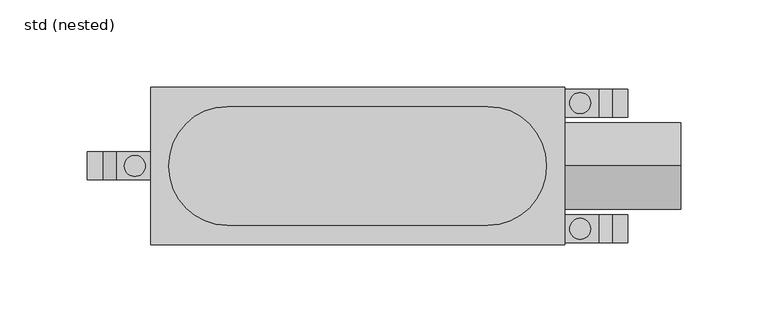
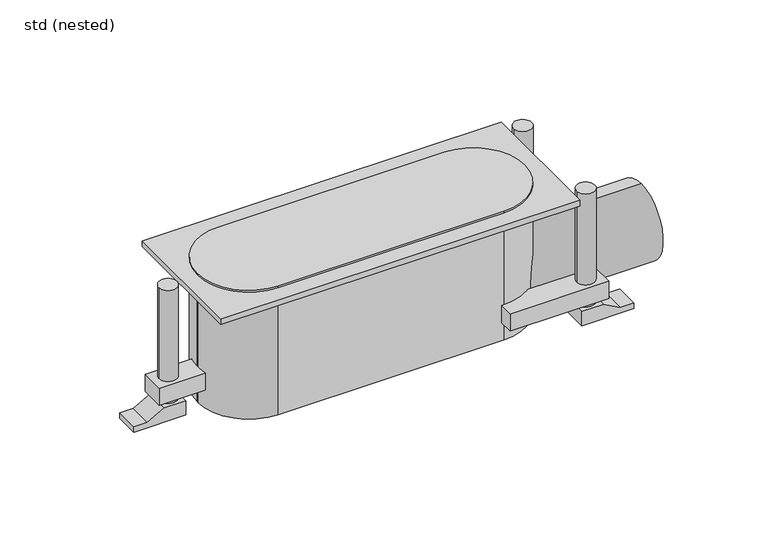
"""IFC4 building model written with IfcOpenShell, lengths in millimetres: sanitary terminal geometry, ZZZ_do not use_PF_WPB_floor drain ShowerDrain S+_ACO : std (nested)."""

from ifc_helpers import new_model, si_unit, point, frame, frame_2d, origin, place, context, project, spatial, polyline, circle_curve, trimmed, segment, composite_curve, outline, extrude, source, transform, mapped, element, save
from ifc_brep_helpers import plane_surface, cylinder_surface, advanced_brep


def std_nested_d991f233(model_context):
    return source(origin(), model_context, "Body", "SolidModel", [
        extrude(outline(composite_curve([segment(trimmed(circle_curve(frame_2d((-74.5, 0.5)), 33.5), [point((-108.0, 0.5))], [point((-74.5, 34.0))], False, "CARTESIAN"), True, "CONTINUOUS"), segment(polyline([(-74.5, 34.0), (74.5, 34.0)]), True, "CONTINUOUS"), segment(trimmed(circle_curve(frame_2d((74.5, 0.5)), 33.5), [point((74.5, 34.0))], [point((108.0, 0.5))], False, "CARTESIAN"), True, "CONTINUOUS"), segment(polyline([(108.0, 0.5), (108.0, -0.5)]), True, "CONTINUOUS"), segment(trimmed(circle_curve(frame_2d((74.5, -0.5)), 33.5), [point((108.0, -0.5))], [point((74.5, -34.0))], False, "CARTESIAN"), True, "CONTINUOUS"), segment(polyline([(74.5, -34.0), (-74.5, -34.0)]), True, "CONTINUOUS"), segment(trimmed(circle_curve(frame_2d((-74.5, -0.5)), 33.5), [point((-74.5, -34.0))], [point((-108.0, -0.5))], False, "CARTESIAN"), True, "CONTINUOUS"), segment(polyline([(-108.0, -0.5), (-108.0, 0.5)]), True, "CONTINUOUS")], self_intersect=False)), frame((0.0, 0.0, -90.0111617), z_axis=(0.0, 0.0, 1.0), x_axis=(1.0, 0.0, 0.0)), (0.0, 0.0, 1.0), 90.0),
        extrude(outline(composite_curve([segment(trimmed(circle_curve(frame_2d((0.0, -65.0111617)), 25.0), [point((0.0, -90.0111617))], [point((0.0, -40.0111617))], False, "CARTESIAN"), True, "CONTINUOUS"), segment(trimmed(circle_curve(frame_2d((0.0, -65.0111617)), 25.0), [point((0.0, -40.0111617))], [point((0.0, -90.0111617))], False, "CARTESIAN"), True, "CONTINUOUS")], self_intersect=False)), frame((0.0, 0.0, 0.0), z_axis=(1.0, 0.0, 0.0), x_axis=(0.0, 1.0, 0.0)), (0.0, 0.0, 1.0), 185.0),
        extrude(outline(polyline([(118.5, 45.0), (118.5, -45.0), (-118.5, -45.0), (-118.5, 45.0), (118.5, 45.0)]), holes=[composite_curve([segment(polyline([(-108.0, 0.5), (-108.0, -0.5)]), True, "CONTINUOUS"), segment(trimmed(circle_curve(frame_2d((-74.5, -0.5)), 33.5), [point((-108.0, -0.5))], [point((-74.5, -34.0))], True, "CARTESIAN"), True, "CONTINUOUS"), segment(polyline([(-74.5, -34.0), (74.5, -34.0)]), True, "CONTINUOUS"), segment(trimmed(circle_curve(frame_2d((74.5, -0.5)), 33.5), [point((74.5, -34.0))], [point((108.0, -0.5))], True, "CARTESIAN"), True, "CONTINUOUS"), segment(polyline([(108.0, -0.5), (108.0, 0.5)]), True, "CONTINUOUS"), segment(trimmed(circle_curve(frame_2d((74.5, 0.5)), 33.5), [point((108.0, 0.5))], [point((74.5, 34.0))], True, "CARTESIAN"), True, "CONTINUOUS"), segment(polyline([(74.5, 34.0), (-74.5, 34.0)]), True, "CONTINUOUS"), segment(trimmed(circle_curve(frame_2d((-74.5, 0.5)), 33.5), [point((-74.5, 34.0))], [point((-108.0, 0.5))], True, "CARTESIAN"), True, "CONTINUOUS")], self_intersect=False)]), frame((0.0, 0.0, -5.0111617), z_axis=(0.0, 0.0, 1.0), x_axis=(1.0, 0.0, 0.0)), (0.0, 0.0, 1.0), 4.0),
        extrude(outline(composite_curve([segment(polyline([(138.0, 44.0), (138.0, 28.0), (93.6311265, 28.0)]), True, "CONTINUOUS"), segment(trimmed(circle_curve(frame_2d((74.5, 0.5)), 33.5), [point((93.6311265, 28.0))], [point((74.5, 34.0))], True, "CARTESIAN"), True, "CONTINUOUS"), segment(polyline([(74.5, 34.0), (73.0, 34.0), (73.0, 44.0), (138.0, 44.0)]), True, "CONTINUOUS")], self_intersect=False)), frame((0.0, 0.0, -77.0111617), z_axis=(0.0, 0.0, 1.0), x_axis=(1.0, 0.0, 0.0)), (0.0, 0.0, 1.0), 12.0),
        extrude(outline(composite_curve([segment(polyline([(-138.0, -8.0), (-138.0, 8.0), (-107.1496554, 8.0)]), True, "CONTINUOUS"), segment(trimmed(circle_curve(frame_2d((-74.5, 0.5)), 33.5), [point((-107.1496554, 8.0))], [point((-108.0, 0.5))], True, "CARTESIAN"), True, "CONTINUOUS"), segment(polyline([(-108.0, 0.5), (-108.0, -0.5)]), True, "CONTINUOUS"), segment(trimmed(circle_curve(frame_2d((-74.5, -0.5)), 33.5), [point((-108.0, -0.5))], [point((-107.1496554, -8.0))], True, "CARTESIAN"), True, "CONTINUOUS"), segment(polyline([(-107.1496554, -8.0), (-138.0, -8.0)]), True, "CONTINUOUS")], self_intersect=False)), frame((0.0, 0.0, -77.0111617), z_axis=(0.0, 0.0, 1.0), x_axis=(1.0, 0.0, 0.0)), (0.0, 0.0, 1.0), 12.0),
        extrude(outline(composite_curve([segment(polyline([(138.0, -44.0), (73.0, -44.0), (73.0, -34.0), (74.5, -34.0)]), True, "CONTINUOUS"), segment(trimmed(circle_curve(frame_2d((74.5, -0.5)), 33.5), [point((74.5, -34.0))], [point((93.6311265, -28.0))], True, "CARTESIAN"), True, "CONTINUOUS"), segment(polyline([(93.6311265, -28.0), (138.0, -28.0), (138.0, -44.0)]), True, "CONTINUOUS")], self_intersect=False)), frame((0.0, 0.0, -77.0111617), z_axis=(0.0, 0.0, 1.0), x_axis=(1.0, 0.0, 0.0)), (0.0, 0.0, 1.0), 12.0),
        advanced_brep(
        [(-154.7, -8.0, -90.0111617), (-120.3, -8.0, -90.0111617), (-120.3, -8.0, -80.0111617), (-134.7, -8.0, -80.0111617), (-145.7, -8.0, -86.0111617), (-154.7, -8.0, -86.0111617), (-120.3, 8.0, -90.0111617), (-154.7, 8.0, -90.0111617), (-154.7, 8.0, -86.0111617), (-145.7, 8.0, -86.0111617), (-134.7, 8.0, -80.0111617), (-120.3, 8.0, -80.0111617), (-133.5, 0.0, -80.0111617), (-121.5, 0.0, -80.0111617), (-121.5, 0.0, -1.0111617), (-133.5, 0.0, -1.0111617)],
        [
            (0, 1),
            (1, 2),
            (2, 3),
            (3, 4),
            (4, 5),
            (5, 0),
            (6, 7),
            (7, 8),
            (8, 9),
            (9, 10),
            (10, 11),
            (11, 6),
            (1, 6),
            (11, 2),
            (10, 3),
            (12, 13, circle_curve(frame((-127.5, 0.0, -80.0111617), z_axis=(0.0, 0.0, -1.0), x_axis=(-1.0, 0.0, 0.0)), 6.0)),
            (13, 12, circle_curve(frame((-127.5, 0.0, -80.0111617), z_axis=(0.0, 0.0, -1.0), x_axis=(-1.0, 0.0, 0.0)), 6.0)),
            (9, 4),
            (8, 5),
            (7, 0),
            (14, 15, circle_curve(frame((-127.5, 0.0, -1.0111617), z_axis=(0.0, 0.0, 1.0), x_axis=(-1.0, 0.0, 0.0)), 6.0)),
            (15, 14, circle_curve(frame((-127.5, 0.0, -1.0111617), z_axis=(0.0, 0.0, 1.0), x_axis=(-1.0, 0.0, 0.0)), 6.0)),
            (14, 13),
            (12, 15),
        ],
        [
            plane_surface(frame((-127.5, -8.0, -90.0111617), z_axis=(0.0, -1.0, 0.0), x_axis=(0.0, 0.0, 1.0))),
            plane_surface(frame((-127.5, 8.0, -90.0111617), z_axis=(0.0, 1.0, 0.0), x_axis=(0.0, 0.0, 1.0))),
            plane_surface(frame((-120.3, -8.0, -90.0111617), z_axis=(1.0, 0.0, 0.0), x_axis=(0.0, 1.0, 0.0))),
            plane_surface(frame((-120.3, -8.0, -80.0111617), z_axis=(0.0, 0.0, 1.0), x_axis=(0.0, 1.0, 0.0))),
            plane_surface(frame((-134.7, -8.0, -80.0111617), z_axis=(-0.4788521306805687, 0.0, 0.8778955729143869), x_axis=(0.0, 1.0, 0.0))),
            plane_surface(frame((-145.7, -8.0, -86.0111617), z_axis=(0.0, 0.0, 1.0), x_axis=(0.0, 1.0, 0.0))),
            plane_surface(frame((-154.7, -8.0, -86.0111617), z_axis=(-1.0, 0.0, 0.0), x_axis=(0.0, 1.0, 0.0))),
            plane_surface(frame((121.5, -36.0, -1.0111617), z_axis=(0.0, 0.0, 1.0), x_axis=(0.0, -1.0, 0.0))),
            cylinder_surface(frame((-127.5, 0.0, -90.0111617), z_axis=(0.0, 0.0, 1.0), x_axis=(-1.0, 0.0, 0.0)), 6.0),
            plane_surface(frame((-127.5, -8.0, -90.0111617), z_axis=(0.0, 0.0, -1.0), x_axis=(0.0, 1.0, 0.0))),
        ],
        [
            (0, [[1, 2, 3, 4, 5, 6]]),
            (1, [[7, 8, 9, 10, 11, 12]]),
            (2, [[-2, 13, -12, 14]]),
            (3, [[-3, -14, -11, 15], [16, 17]]),
            (4, [[-4, -15, -10, 18]]),
            (5, [[-5, -18, -9, 19]]),
            (6, [[-6, -19, -8, 20]]),
            (7, [[21, 22]]),
            (8, [[-21, 23, -16, 24]]),
            (8, [[-22, -24, -17, -23]]),
            (9, [[-1, -20, -7, -13]]),
        ],
    ),
        advanced_brep(
        [(133.5, -36.0, -1.0111617), (121.5, -36.0, -1.0111617), (154.7, -44.0, -90.0111617), (120.3, -44.0, -90.0111617), (120.3, -28.0, -90.0111617), (154.7, -28.0, -90.0111617), (133.5, -36.0, -80.0111617), (121.5, -36.0, -80.0111617), (154.7, -44.0, -86.0111617), (145.7, -44.0, -86.0111617), (134.7, -44.0, -80.0111617), (120.3, -44.0, -80.0111617), (120.3, -28.0, -80.0111617), (134.7, -28.0, -80.0111617), (145.7, -28.0, -86.0111617), (154.7, -28.0, -86.0111617)],
        [
            (0, 1, circle_curve(frame((127.5, -36.0, -1.0111617), z_axis=(0.0, 0.0, 1.0), x_axis=(-1.0, 0.0, 0.0)), 6.0)),
            (1, 0, circle_curve(frame((127.5, -36.0, -1.0111617), z_axis=(0.0, 0.0, 1.0), x_axis=(-1.0, 0.0, 0.0)), 6.0)),
            (2, 3),
            (3, 4),
            (4, 5),
            (5, 2),
            (0, 6),
            (6, 7, circle_curve(frame((127.5, -36.0, -80.0111617), z_axis=(0.0, 0.0, 1.0), x_axis=(-1.0, 0.0, 0.0)), 6.0)),
            (7, 1),
            (7, 6, circle_curve(frame((127.5, -36.0, -80.0111617), z_axis=(0.0, 0.0, 1.0), x_axis=(-1.0, 0.0, 0.0)), 6.0)),
            (2, 8),
            (8, 9),
            (9, 10),
            (10, 11),
            (11, 3),
            (4, 12),
            (12, 13),
            (13, 14),
            (14, 15),
            (15, 5),
            (11, 12),
            (10, 13),
            (9, 14),
            (8, 15),
        ],
        [
            plane_surface(frame((121.5, -36.0, -1.0111617), z_axis=(0.0, 0.0, 1.0), x_axis=(0.0, -1.0, 0.0))),
            plane_surface(frame((121.5, -36.0, -90.0111617), z_axis=(0.0, 0.0, -1.0), x_axis=(0.0, 1.0, 0.0))),
            cylinder_surface(frame((127.5, -36.0, -90.0111617), z_axis=(0.0, 0.0, 1.0), x_axis=(-1.0, 0.0, 0.0)), 6.0),
            plane_surface(frame((127.5, -44.0, -90.0111617), z_axis=(0.0, -1.0, 0.0), x_axis=(0.0, 0.0, 1.0))),
            plane_surface(frame((127.5, -28.0, -90.0111617), z_axis=(0.0, 1.0, 0.0), x_axis=(0.0, 0.0, 1.0))),
            plane_surface(frame((120.3, -44.0, -80.0111617), z_axis=(-1.0, 0.0, 0.0), x_axis=(0.0, 1.0, 0.0))),
            plane_surface(frame((134.7, -44.0, -80.0111617), z_axis=(0.0, 0.0, 1.0), x_axis=(0.0, 1.0, 0.0))),
            plane_surface(frame((145.7, -44.0, -86.0111617), z_axis=(0.4788521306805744, 0.0, 0.8778955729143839), x_axis=(0.0, 1.0, 0.0))),
            plane_surface(frame((154.7, -44.0, -86.0111617), z_axis=(0.0, 0.0, 1.0), x_axis=(0.0, 1.0, 0.0))),
            plane_surface(frame((154.7, -44.0, -90.0111617), z_axis=(1.0, 0.0, 0.0), x_axis=(0.0, 1.0, 0.0))),
        ],
        [
            (0, [[1, 2]]),
            (1, [[3, 4, 5, 6]]),
            (2, [[-1, 7, 8, 9]]),
            (2, [[-2, -9, 10, -7]]),
            (3, [[-3, 11, 12, 13, 14, 15]]),
            (4, [[-5, 16, 17, 18, 19, 20]]),
            (5, [[-15, 21, -16, -4]]),
            (6, [[-14, 22, -17, -21], [-8, -10]]),
            (7, [[-13, 23, -18, -22]]),
            (8, [[-12, 24, -19, -23]]),
            (9, [[-11, -6, -20, -24]]),
        ],
    ),
        advanced_brep(
        [(133.5, 36.0, -1.0111617), (121.5, 36.0, -1.0111617), (154.7, 28.0, -90.0111617), (120.3, 28.0, -90.0111617), (120.3, 44.0, -90.0111617), (154.7, 44.0, -90.0111617), (133.5, 36.0, -80.0111617), (121.5, 36.0, -80.0111617), (154.7, 28.0, -86.0111617), (145.7, 28.0, -86.0111617), (134.7, 28.0, -80.0111617), (120.3, 28.0, -80.0111617), (120.3, 44.0, -80.0111617), (134.7, 44.0, -80.0111617), (145.7, 44.0, -86.0111617), (154.7, 44.0, -86.0111617)],
        [
            (0, 1, circle_curve(frame((127.5, 36.0, -1.0111617), z_axis=(0.0, 0.0, 1.0), x_axis=(-1.0, 0.0, 0.0)), 6.0)),
            (1, 0, circle_curve(frame((127.5, 36.0, -1.0111617), z_axis=(0.0, 0.0, 1.0), x_axis=(-1.0, 0.0, 0.0)), 6.0)),
            (2, 3),
            (3, 4),
            (4, 5),
            (5, 2),
            (0, 6),
            (6, 7, circle_curve(frame((127.5, 36.0, -80.0111617), z_axis=(0.0, 0.0, 1.0), x_axis=(-1.0, 0.0, 0.0)), 6.0)),
            (7, 1),
            (7, 6, circle_curve(frame((127.5, 36.0, -80.0111617), z_axis=(0.0, 0.0, 1.0), x_axis=(-1.0, 0.0, 0.0)), 6.0)),
            (2, 8),
            (8, 9),
            (9, 10),
            (10, 11),
            (11, 3),
            (4, 12),
            (12, 13),
            (13, 14),
            (14, 15),
            (15, 5),
            (11, 12),
            (10, 13),
            (9, 14),
            (8, 15),
        ],
        [
            plane_surface(frame((121.5, -36.0, -1.0111617), z_axis=(0.0, 0.0, 1.0), x_axis=(0.0, -1.0, 0.0))),
            plane_surface(frame((121.5, -36.0, -90.0111617), z_axis=(0.0, 0.0, -1.0), x_axis=(0.0, 1.0, 0.0))),
            cylinder_surface(frame((127.5, 36.0, -90.0111617), z_axis=(0.0, 0.0, 1.0), x_axis=(-1.0, 0.0, 0.0)), 6.0),
            plane_surface(frame((127.5, 28.0, -90.0111617), z_axis=(0.0, -1.0, 0.0), x_axis=(0.0, 0.0, 1.0))),
            plane_surface(frame((127.5, 44.0, -90.0111617), z_axis=(0.0, 1.0, 0.0), x_axis=(0.0, 0.0, 1.0))),
            plane_surface(frame((120.3, 28.0, -80.0111617), z_axis=(-1.0, 0.0, 0.0), x_axis=(0.0, 1.0, 0.0))),
            plane_surface(frame((134.7, 28.0, -80.0111617), z_axis=(0.0, 0.0, 1.0), x_axis=(0.0, 1.0, 0.0))),
            plane_surface(frame((145.7, 28.0, -86.0111617), z_axis=(0.4788521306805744, 0.0, 0.8778955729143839), x_axis=(0.0, 1.0, 0.0))),
            plane_surface(frame((154.7, 28.0, -86.0111617), z_axis=(0.0, 0.0, 1.0), x_axis=(0.0, 1.0, 0.0))),
            plane_surface(frame((154.7, 28.0, -90.0111617), z_axis=(1.0, 0.0, 0.0), x_axis=(0.0, 1.0, 0.0))),
        ],
        [
            (0, [[1, 2]]),
            (1, [[3, 4, 5, 6]]),
            (2, [[-1, 7, 8, 9]]),
            (2, [[-2, -9, 10, -7]]),
            (3, [[-3, 11, 12, 13, 14, 15]]),
            (4, [[-5, 16, 17, 18, 19, 20]]),
            (5, [[-15, 21, -16, -4]]),
            (6, [[-14, 22, -17, -21], [-8, -10]]),
            (7, [[-13, 23, -18, -22]]),
            (8, [[-12, 24, -19, -23]]),
            (9, [[-11, -6, -20, -24]]),
        ],
    ),
    ])


if __name__ == "__main__":
    model = new_model("IFC4")
    model_context = context("Model", 3, world=origin())
    ifc_project = project(units=[si_unit("LENGTHUNIT", "METRE", prefix="MILLI")], contexts=[model_context])
    site = spatial("IfcSite", under=ifc_project)
    building = spatial("IfcBuilding", under=site)
    placement = place(None, origin())
    std_nested_shape = std_nested_d991f233(model_context)
    element("IfcSanitaryTerminal", 1, ObjectType="ZZZ_do not use_PF_WPB_floor drain ShowerDrain S+_ACO : std (nested)", at=placement, inside=building, context=model_context, shape_type="MappedRepresentation", body=[
        mapped(std_nested_shape, transform((0.0, 0.0, 0.0), x_axis=(1.0, 0.0, 0.0), y_axis=(0.0, 1.0, 0.0), z_axis=(0.0, 0.0, 1.0))),
    ])
    save(model, "model.ifc")
